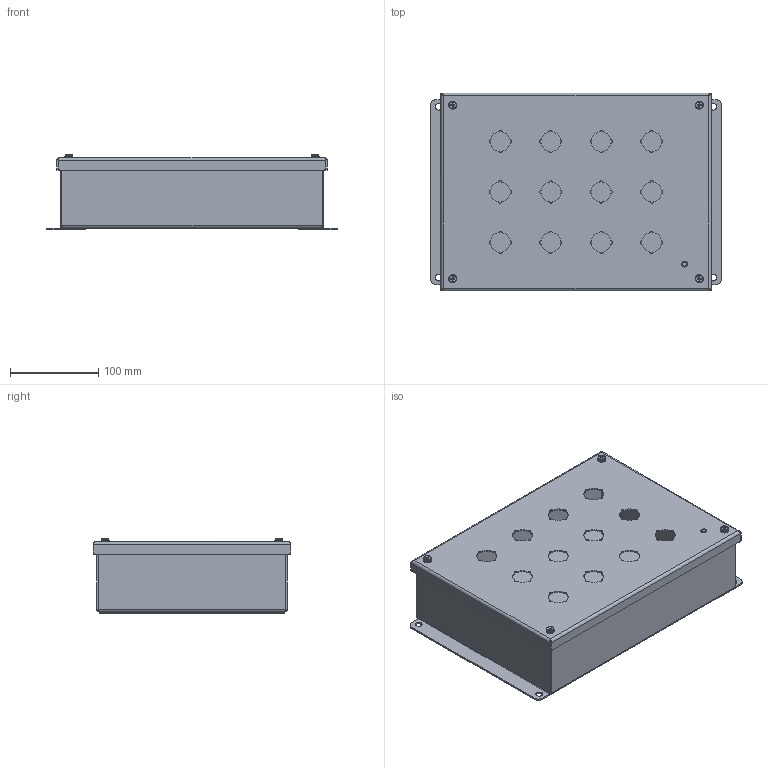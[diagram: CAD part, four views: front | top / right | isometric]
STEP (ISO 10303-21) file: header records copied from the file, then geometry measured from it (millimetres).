
FILE_DESCRIPTION((''),'2;1');
FILE_NAME('MODEL-042_ASM','2020-11-03T13:00:05',('dougp'),('SAGINAW CONTROL & ENGINEERING'),'CREO PARAMETRIC BY PTC INC, 2017260','CREO PARAMETRIC BY PTC INC, 2017260','');
FILE_SCHEMA(('AUTOMOTIVE_DESIGN { 1 0 10303 214 1 1 1 1 }'));
Length unit declared in the file: inch
Products named in the file (10): MODEL-042-BDY; MODEL-042-DR; 101966; MODEL-042-STRP; 100012; 100097; 100983; 102534; MODEL-042-GSKT; MODEL-042_ASM
Assembly tree (16 placements, depth 2):
  MODEL-042_ASM
    MODEL-042-BDY
    MODEL-042-DR
    101966
    MODEL-042-STRP  x2
    100012
    100097
    100983  x4
    102534  x4
    MODEL-042-GSKT
Bounding box: 330.2 x 223.84 x 85.69 mm (x, y, z)
Volume: 401236.4 mm3; surface area: 522427.7 mm2
Topology: 19 solids, 19 shells, 887 faces, 2250 edges, 1356 vertices
Faces by surface type: cylinder 428, plane 247, bspline 104, torus 80, cone 28
Entity records: 28328 total; most frequent: CARTESIAN_POINT 6717, DIRECTION 3226, ORIENTED_EDGE 2948, EDGE_CURVE 1474, PRESENTATION_STYLE_ASSIGNMENT 1386, STYLED_ITEM 1386, CURVE_STYLE 1310, AXIS2_PLACEMENT_3D 1280
